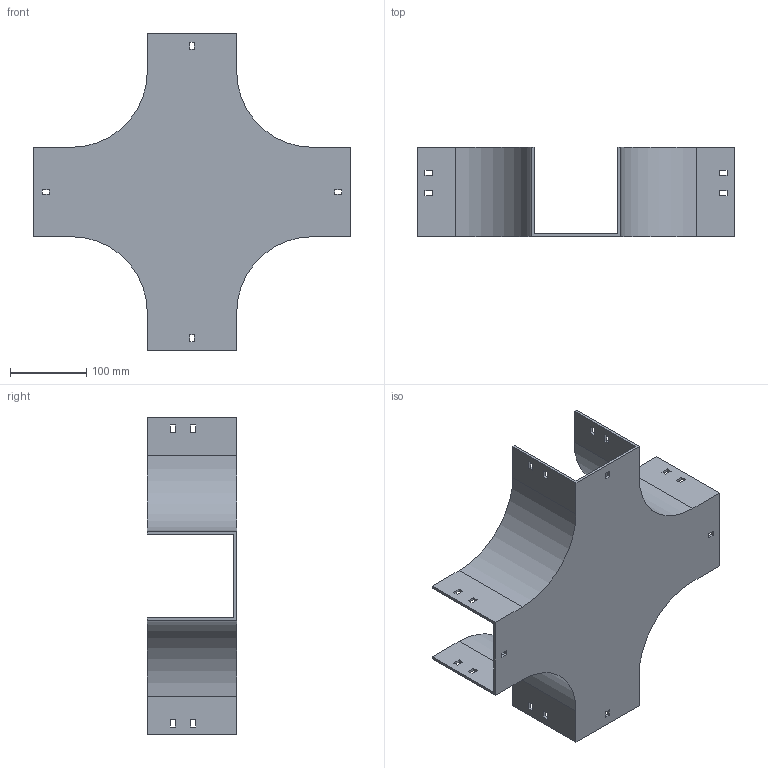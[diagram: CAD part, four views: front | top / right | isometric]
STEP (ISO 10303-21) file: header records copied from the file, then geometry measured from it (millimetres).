
FILE_DESCRIPTION (( 'STEP AP214' ), '1' );
FILE_NAME ('17B1J117.step', '2025-02-21T09:56:31', ( '' ), ( '' ), 'SwSTEP 2.0', 'SolidWorks 2023', '' );
FILE_SCHEMA (( 'AUTOMOTIVE_DESIGN' ));
Length unit declared in the file: millimetre
Products named in the file (1): 17B1J117
Bounding box: 417.5 x 117.5 x 417.5 mm (x, y, z)
Volume: 735063.5 mm3; surface area: 430810.4 mm2
Topology: 1 solids, 1 shells, 114 faces, 336 edges, 224 vertices
Faces by surface type: plane 106, cylinder 8
Entity records: 3839 total; most frequent: CARTESIAN_POINT 675, ORIENTED_EDGE 672, DIRECTION 582, EDGE_CURVE 336, LINE 320, VECTOR 320, VERTEX_POINT 224, EDGE_LOOP 154
